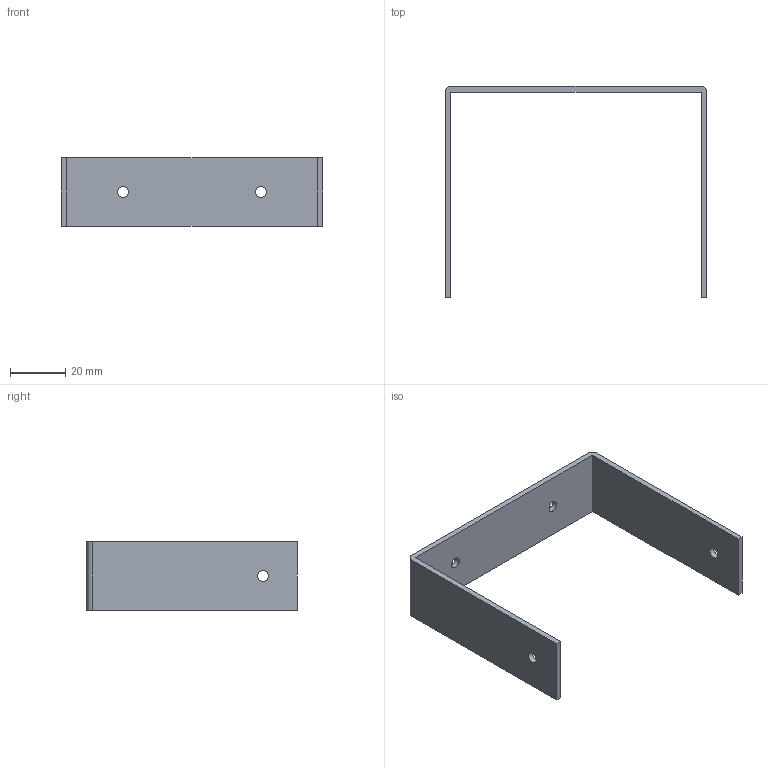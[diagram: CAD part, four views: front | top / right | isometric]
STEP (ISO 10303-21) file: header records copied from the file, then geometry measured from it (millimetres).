
FILE_DESCRIPTION(('HOOPS Exchange Step'),'2;1');
FILE_NAME('C:\Users\ZakSawa\AppData\Local\Temp\Alibre Design\export-A32535F3-64FC-4A41-A551-87349E9376BB.stp','2019-08-02T19:51:24+09:00',('ZakSawa'),('Alibre'),'HOOPS Exchange 2019.2','Alibre','Unknown authorisation');
FILE_SCHEMA( ('AP203_CONFIGURATION_CONTROLLED_3D_DESIGN_OF_MECHANICAL_PARTS_AND_ASSEMBLIES_MIM_LF') );
Length unit declared in the file: millimetre
Products named in the file (1): BatteryHolderMainFrameE
Bounding box: 95 x 76.5 x 25 mm (x, y, z)
Volume: 12056.5 mm3; surface area: 13229.6 mm2
Topology: 1 solids, 1 shells, 16 faces, 44 edges, 30 vertices
Faces by surface type: plane 10, cylinder 6
Full cylindrical faces by diameter (mm): 4 x4
Entity records: 559 total; most frequent: DIRECTION 92, CARTESIAN_POINT 91, ORIENTED_EDGE 88, EDGE_CURVE 44, AXIS2_PLACEMENT_3D 31, VERTEX_POINT 30, VECTOR 30, LINE 30
